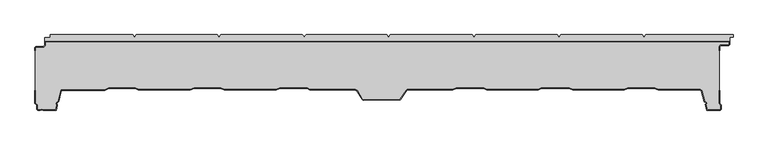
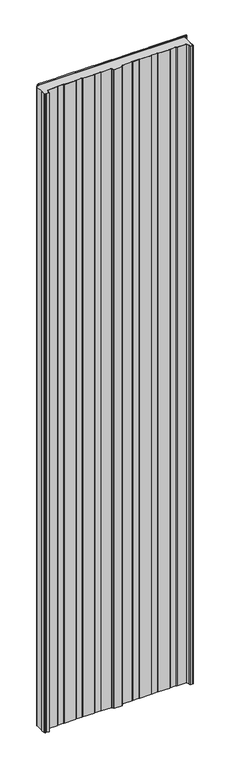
"""IFC4 building model written with IfcOpenShell, lengths in millimetres: plate geometry, Paneles-Sándwich-Madera_PAPUR-AC_Curtain-Panel : PAPUR AC 80/10."""

from ifc_helpers import new_model, si_unit, origin, origin_with_axes, place, context, project, spatial, polyline, outline, extrude, source, transform, mapped, element, save


def plate_3d06f1da(model_context):
    return source(origin(), model_context, "Body", "SweptSolid", [
        extrude(outline(polyline([(-404.8923076, 8.0070037), (-402.9037044, 10.0073737), (-272.8159298, 10.0073737), (-270.8198896, 8.0070037), (-270.8198896, 6.0196231), (-268.8151898, 6.0196231), (-268.8151898, 8.0070037), (-266.8234794, 10.0073737), (-136.0114048, 10.0073737), (-134.028354, 8.0070037), (-134.028354, 6.0196231), (-132.0236542, 6.0196231), (-132.0236542, 8.0070037), (-130.027614, 10.0073737), (-0.6790135, 10.0073737), (1.3083671, 8.0070037), (1.3083671, 6.0196231), (3.3044073, 6.0196231), (3.3044073, 8.0070037), (5.3047773, 10.0073737), (136.7230247, 10.0073737), (138.7147351, 8.0070037), (138.7147351, 6.0196231), (140.7107753, 6.0196231), (140.7107753, 8.0070037), (142.7111453, 10.0073737), (272.9386962, 10.0073737), (274.9390662, 8.0070037), (274.9390662, 6.0196231), (276.9351064, 6.0196231), (276.9351064, 8.0070037), (278.9311466, 10.0073737), (409.5094118, 10.0073737), (411.5097818, 8.0070037), (411.5097818, 6.0196231), (413.4971624, 6.0196231), (413.4971624, 8.0070037), (415.4932026, 10.0073737), (555.7269333, 10.0073737), (555.7269333, 6.4959017), (550.4015009, 6.4959017), (550.4015009, 0.0), (-549.601171, 0.0), (-549.601171, 5.5984381), (-541.266524, 5.5984381), (-541.266524, 10.0073737), (-408.8887178, 10.0073737), (-406.8926776, 8.0070037), (-406.8926776, 6.0196231), (-404.8923076, 6.0196231), (-404.8923076, 8.0070037)])), origin_with_axes(), (0.0, 0.0, 1.0), 5000.0),
        extrude(outline(polyline([(-565.6618356, -10.4348305), (-564.1420739, -9.1055803), (-552.1008857, -8.9930054), (-549.9316533, -7.001295), (-549.9922705, -1.1690474), (-548.9531173, 0.0), (548.9555868, 0.0), (549.99474, -0.6538006), (549.99474, -6.0184292), (548.4489996, -7.5641697), (535.77133, -7.5641697), (533.9181733, -9.3995927), (533.9181733, -15.1889566), (533.1181733, -15.1889566), (533.1181733, -9.0659666), (535.4422099, -6.7641697), (548.1176287, -6.7641697), (549.19474, -5.6870584), (549.19474, -0.8), (-548.5938644, -0.8), (-549.1891031, -1.4696435), (-549.1279914, -7.3494661), (-551.7861577, -9.7900979), (-563.8383716, -9.9027759), (-564.8585217, -10.795044), (-564.8185043, -15.1889566), (-565.6185375, -15.1889566), (-565.6618356, -10.4348305)])), origin_with_axes(), (0.0, 0.0, 1.0), 5000.0),
        extrude(outline(polyline([(160.2961713, -79.080732), (155.0700964, -76.8595419), (110.914743, -76.8595419), (105.4418692, -79.080732), (32.9522706, -79.080732), (31.4498282, -80.0159699), (22.1450768, -94.1874223), (21.0669553, -95.2871929), (-38.4029191, -95.7721311), (-40.2907141, -94.4602001), (-48.8593986, -80.2974073), (-51.5698567, -79.080732), (-124.2066687, -79.080732), (-128.6057508, -76.8595419), (-172.432039, -76.8595419), (-178.2426376, -79.080732), (-261.7689096, -79.080732), (-267.3283795, -76.8595419), (-309.6738743, -76.8595419), (-315.8568362, -79.080732), (-399.3138314, -79.080732), (-404.2931073, -76.8595419), (-447.2231259, -76.8595419), (-453.6788654, -79.5570106), (-522.9773976, -79.6955644), (-527.4977143, -97.4131272), (-528.6234636, -98.5994938), (-530.0999272, -99.3355607), (-530.4116732, -100.262139), (-529.4850948, -102.4227118), (-529.4850948, -103.6653659), (-531.6372836, -112.0045707), (-552.0433799, -112.0045707), (-554.8231149, -111.0779924), (-557.2997634, -112.0045707), (-560.7029903, -112.0045707), (-562.8635631, -110.4025428), (-562.9285102, -103.2756835), (-565.6476279, -100.6041937), (-565.6, -79.57), (-564.7999979, -79.57), (-564.8468678, -100.2694216), (-562.1315619, -102.9371664), (-562.0672248, -109.9970874), (-560.438754, -111.2045707), (-557.4445144, -111.2045707), (-554.8384953, -110.2295916), (-551.9135578, -111.2045707), (-532.2570317, -111.2045707), (-530.2850948, -103.5637976), (-530.2850948, -102.5870188), (-531.2673442, -100.2966335), (-530.7527365, -98.767105), (-529.1066634, -97.946482), (-528.2213945, -97.0135448), (-523.5992353, -78.896806), (-453.8400488, -78.7573313), (-447.3835418, -76.0595419), (-404.1227627, -76.0595419), (-399.1434867, -78.280732), (-315.9961744, -78.280732), (-309.8132126, -76.0595419), (-267.1744807, -76.0595419), (-261.6150108, -78.280732), (-178.390332, -78.280732), (-172.5797335, -76.0595419), (-128.4152363, -76.0595419), (-124.0161542, -78.280732), (-51.3985382, -78.280732), (-48.3041085, -79.6697651), (-39.6943674, -93.9004185), (-38.1551784, -94.9700843), (20.728235, -94.4899283), (21.5191698, -93.6831114), (30.8776723, -79.4297941), (32.7236193, -78.280732), (105.2857129, -78.280732), (110.7585866, -76.0595419), (155.2330509, -76.0595419), (160.4591258, -78.280732), (242.801635, -78.280732), (247.2274638, -76.0595419), (292.6117194, -76.0595419), (298.2231469, -78.280732), (380.6626325, -78.280732), (386.4515821, -75.3754327), (429.5764659, -75.3754327), (435.4444395, -78.2812706), (503.1429943, -78.4760679), (505.4861808, -79.5321519), (510.3641127, -97.2870941), (512.9960103, -98.5999754), (513.122536, -100.5751818), (511.934239, -102.1278347), (514.154453, -110.732622), (534.8688225, -110.732622), (536.1415957, -109.4787983), (536.1415957, -103.5331272), (533.1367108, -100.7549039), (533.1367108, -79.57), (533.9367108, -79.57), (533.9367108, -100.4050226), (536.9415957, -103.1832459), (536.9415957, -109.8136893), (535.1966842, -111.532622), (513.5346688, -111.532622), (511.06235, -101.9507631), (512.3050041, -100.3270861), (512.2270676, -99.1104109), (509.6873364, -97.8435053), (504.8144411, -80.1068958), (502.9699441, -79.2755732), (435.2561206, -79.080732), (429.3892345, -76.1754327), (386.6410678, -76.1754327), (380.8521183, -79.080732), (298.0705727, -79.080732), (292.4591451, -76.8595419), (247.4169495, -76.8595419), (242.9911208, -79.080732), (160.2961713, -79.080732)])), origin_with_axes(), (0.0, 0.0, 1.0), 5000.0),
        extrude(outline(polyline([(536.139617, -103.5285564), (536.139617, -109.4742276), (534.8668439, -110.7280512), (514.1524744, -110.7280512), (511.9322604, -102.1232639), (513.1205574, -100.5706111), (512.9940317, -98.5954047), (510.3621341, -97.2825234), (505.4842022, -79.5275812), (503.1410157, -78.4714971), (435.4424609, -78.2766998), (429.5744873, -75.370862), (386.4496035, -75.370862), (380.6606539, -78.2761613), (298.2211683, -78.2761613), (292.6097408, -76.0549712), (247.2254852, -76.0549712), (242.7996564, -78.2761613), (160.4571472, -78.2761613), (155.2310723, -76.0549712), (110.756608, -76.0549712), (105.2837343, -78.2761613), (32.7216407, -78.2761613), (30.8756937, -79.4252234), (21.5171912, -93.6785406), (20.7262564, -94.4853576), (-38.157157, -94.9655136), (-39.696346, -93.8958478), (-48.3060871, -79.6651944), (-51.4005168, -78.2761613), (-124.0181328, -78.2761613), (-128.4172149, -76.0549712), (-172.5817121, -76.0549712), (-178.3923106, -78.2761613), (-261.6169894, -78.2761613), (-267.1764593, -76.0549712), (-309.8151912, -76.0549712), (-315.998153, -78.2761613), (-399.1454653, -78.2761613), (-404.1247413, -76.0549712), (-447.3855204, -76.0549712), (-453.8420274, -78.7527605), (-523.6012139, -78.8922353), (-528.2233731, -97.0089741), (-529.108642, -97.9419113), (-530.7547151, -98.7625342), (-531.2693228, -100.2920628), (-530.2870734, -102.5824481), (-530.2870734, -103.5592269), (-532.2590104, -111.2), (-551.9155364, -111.2), (-554.8404739, -110.2250208), (-557.446493, -111.2), (-560.4407326, -111.2), (-562.0692034, -109.9925166), (-562.1335405, -102.9325956), (-564.8488464, -100.2648508), (-564.8019766, -80.0), (-564.8432618, -10.795044), (-563.8231116, -9.9027759), (-551.7708977, -9.7900979), (-549.1127314, -7.3494661), (-549.1738431, -1.4696435), (-548.5786045, -0.8), (549.21, -0.8), (549.21, -5.6870584), (548.1328887, -6.7641697), (535.4574698, -6.7641697), (533.1334333, -9.0659666), (533.1334333, -100.7491322), (536.139617, -103.5285564)])), origin_with_axes(), (0.0, 0.0, 1.0), 5000.0),
    ])


if __name__ == "__main__":
    model = new_model("IFC4")
    model_context = context("Model", 3, world=origin())
    ifc_project = project(units=[si_unit("LENGTHUNIT", "METRE", prefix="MILLI")], contexts=[model_context])
    site = spatial("IfcSite", under=ifc_project)
    building = spatial("IfcBuilding", under=site)
    placement = place(None, origin())
    plate_shape = plate_3d06f1da(model_context)
    element("IfcPlate", 1, ObjectType="Paneles-Sándwich-Madera_PAPUR-AC_Curtain-Panel : PAPUR AC 80/10", at=placement, inside=building, context=model_context, shape_type="MappedRepresentation", body=[
        mapped(plate_shape, transform((0.0, 0.0, 0.0), x_axis=(1.0, 0.0, 0.0), y_axis=(0.0, 1.0, 0.0), z_axis=(0.0, 0.0, 1.0))),
    ])
    save(model, "model.ifc")
